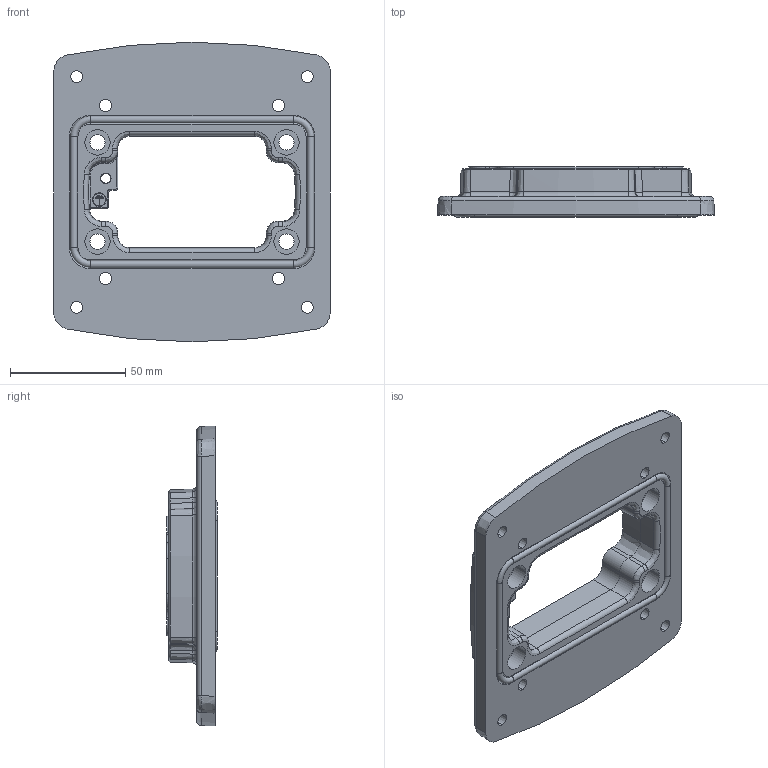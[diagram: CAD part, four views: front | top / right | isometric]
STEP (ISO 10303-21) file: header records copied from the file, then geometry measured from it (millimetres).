
FILE_DESCRIPTION((''),'2;1');
FILE_NAME('9806000044','2018-11-07T14:52:26',('Melanie.Fehring'),(''),'CREO PARAMETRIC BY PTC INC, 2017260','CREO PARAMETRIC BY PTC INC, 2017260','');
FILE_SCHEMA(('AUTOMOTIVE_DESIGN { 1 0 10303 214 1 1 1 1 }'));
Length unit declared in the file: millimetre
Products named in the file (1): 9806000044
Bounding box: 120 x 22 x 130 mm (x, y, z)
Surface area: 38754.5 mm2 (no closed solid volume)
Topology: 0 solids, 2 shells, 424 faces, 1000 edges, 594 vertices
Faces by surface type: cylinder 142, bspline 102, plane 98, cone 40, torus 26, sphere 16
Entity records: 22999 total; most frequent: CARTESIAN_POINT 7460, ORIENTED_EDGE 1968, DIRECTION 1789, PRESENTATION_STYLE_ASSIGNMENT 1426, STYLED_ITEM 1002, CURVE_STYLE 1000, EDGE_CURVE 1000, AXIS2_PLACEMENT_3D 692
